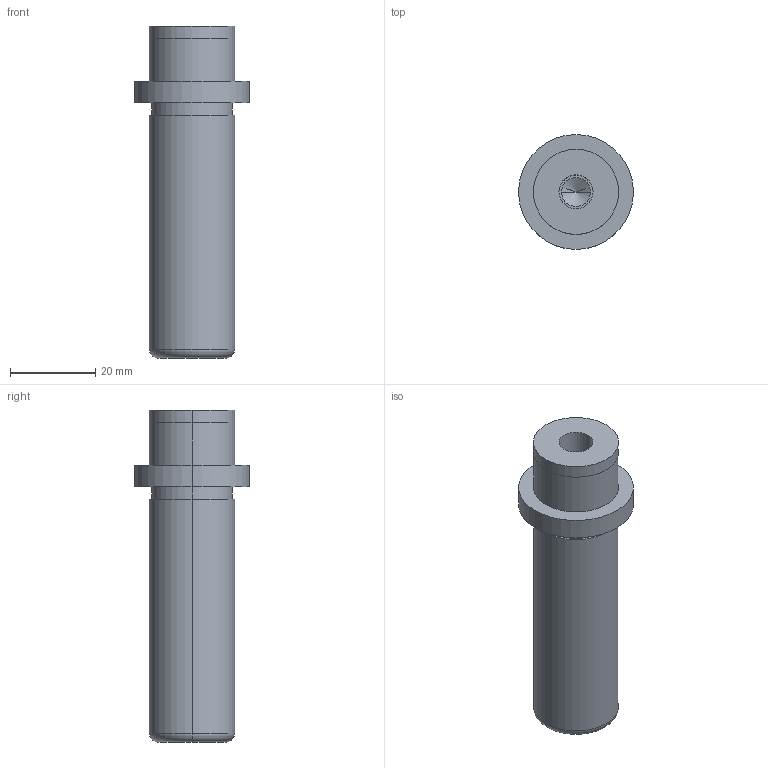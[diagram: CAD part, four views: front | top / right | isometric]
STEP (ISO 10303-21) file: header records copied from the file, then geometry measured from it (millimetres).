
FILE_DESCRIPTION(/* description */ (''),/* implementation_level */ '2;1');
FILE_NAME(/* name */ '3d_sgpw20-65_05258_r00.stp',/* time_stamp */ '2011-01-10T14:11:04+09:00',/* author */ ('MISUMI'),/* organization */ (''),/* preprocessor_version */ 'ST-DEVELOPER v11',/* originating_system */ 'UGS - NX 5.0',/* authorisation */ '');
FILE_SCHEMA (('CONFIG_CONTROL_DESIGN'));
Length unit declared in the file: millimetre
Products named in the file (1): 3d_sgpw20-65_05258_r00
Bounding box: 27 x 27 x 78 mm (x, y, z)
Volume: 23650.6 mm3; surface area: 7153.5 mm2
Topology: 1 solids, 1 shells, 31 faces, 64 edges, 38 vertices
Faces by surface type: cylinder 18, plane 7, cone 4, torus 2
Entity records: 890 total; most frequent: DIRECTION 162, CARTESIAN_POINT 130, ORIENTED_EDGE 120, AXIS2_PLACEMENT_3D 70, EDGE_CURVE 60, EDGE_LOOP 38, CIRCLE 38, VERTEX_POINT 38
